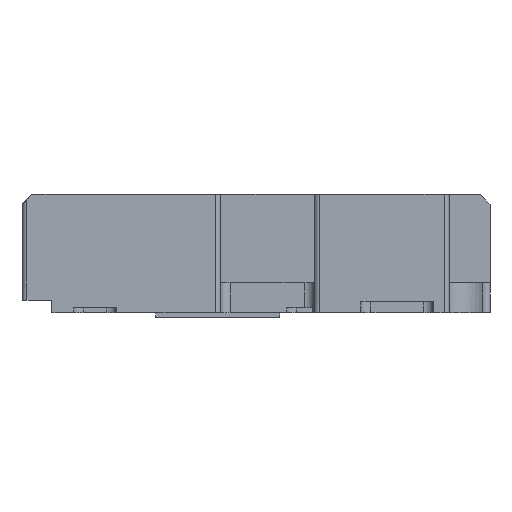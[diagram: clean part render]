
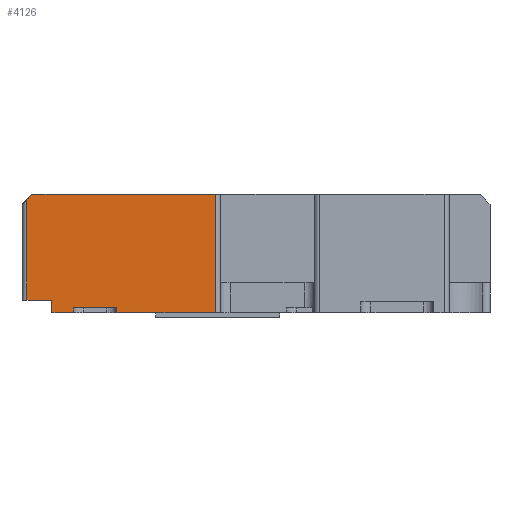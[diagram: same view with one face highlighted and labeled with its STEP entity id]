
A CAD part, front view. The second image highlights one B-rep face of the part: STEP entity #4126.
In plain terms, the highlighted planar face has unit normal (0, -1, 0).
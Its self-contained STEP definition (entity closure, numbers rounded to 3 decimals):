
#63=PLANE('',#4425);
#227=FACE_OUTER_BOUND('',#452,.T.);
#452=EDGE_LOOP('',(#3076,#3077,#3078,#3079,#3080,#3081,#3082,#3083,#3084,
#3085,#3086));
#657=LINE('',#5878,#1157);
#662=LINE('',#5889,#1162);
#689=LINE('',#5961,#1189);
#693=LINE('',#5973,#1193);
#732=LINE('',#6120,#1232);
#735=LINE('',#6126,#1235);
#738=LINE('',#6135,#1238);
#751=LINE('',#6177,#1251);
#754=LINE('',#6185,#1254);
#824=LINE('',#6329,#1324);
#825=LINE('',#6332,#1325);
#1157=VECTOR('',#4691,10.);
#1162=VECTOR('',#4700,10.);
#1189=VECTOR('',#4757,10.);
#1193=VECTOR('',#4765,10.);
#1232=VECTOR('',#4882,10.);
#1235=VECTOR('',#4887,10.);
#1238=VECTOR('',#4896,10.);
#1251=VECTOR('',#4939,10.);
#1254=VECTOR('',#4946,10.);
#1324=VECTOR('',#5026,10.);
#1325=VECTOR('',#5031,10.);
#1779=VERTEX_POINT('',#5875);
#1780=VERTEX_POINT('',#5877);
#1784=VERTEX_POINT('',#5887);
#1814=VERTEX_POINT('',#5960);
#1819=VERTEX_POINT('',#5970);
#1820=VERTEX_POINT('',#5972);
#1889=VERTEX_POINT('',#6119);
#1891=VERTEX_POINT('',#6125);
#1908=VERTEX_POINT('',#6176);
#1911=VERTEX_POINT('',#6184);
#1980=VERTEX_POINT('',#6328);
#2193=EDGE_CURVE('',#1780,#1779,#657,.T.);
#2199=EDGE_CURVE('',#1779,#1784,#662,.T.);
#2234=EDGE_CURVE('',#1780,#1814,#689,.T.);
#2240=EDGE_CURVE('',#1819,#1820,#693,.T.);
#2315=EDGE_CURVE('',#1889,#1814,#732,.T.);
#2318=EDGE_CURVE('',#1891,#1889,#735,.T.);
#2323=EDGE_CURVE('',#1819,#1891,#738,.T.);
#2344=EDGE_CURVE('',#1908,#1820,#751,.T.);
#2348=EDGE_CURVE('',#1911,#1908,#754,.T.);
#2420=EDGE_CURVE('',#1911,#1980,#824,.T.);
#2422=EDGE_CURVE('',#1980,#1784,#825,.T.);
#3076=ORIENTED_EDGE('',*,*,#2193,.T.);
#3077=ORIENTED_EDGE('',*,*,#2199,.T.);
#3078=ORIENTED_EDGE('',*,*,#2422,.F.);
#3079=ORIENTED_EDGE('',*,*,#2420,.F.);
#3080=ORIENTED_EDGE('',*,*,#2348,.T.);
#3081=ORIENTED_EDGE('',*,*,#2344,.T.);
#3082=ORIENTED_EDGE('',*,*,#2240,.F.);
#3083=ORIENTED_EDGE('',*,*,#2323,.T.);
#3084=ORIENTED_EDGE('',*,*,#2318,.T.);
#3085=ORIENTED_EDGE('',*,*,#2315,.T.);
#3086=ORIENTED_EDGE('',*,*,#2234,.F.);
#4126=ADVANCED_FACE('',(#227),#63,.T.);
#4425=AXIS2_PLACEMENT_3D('',#6331,#5029,#5030);
#4691=DIRECTION('',(0.,0.,1.));
#4700=DIRECTION('',(-1.,0.,0.));
#4757=DIRECTION('',(-1.,0.,0.));
#4765=DIRECTION('',(-1.,0.,0.));
#4882=DIRECTION('',(0.,0.,-1.));
#4887=DIRECTION('',(1.,0.,0.));
#4896=DIRECTION('',(0.,0.,1.));
#4939=DIRECTION('',(0.,0.,-1.));
#4946=DIRECTION('',(1.,0.,0.));
#5026=DIRECTION('',(0.,0.,1.));
#5029=DIRECTION('center_axis',(0.,-1.,0.));
#5030=DIRECTION('ref_axis',(1.,0.,0.));
#5031=DIRECTION('',(0.707,0.,0.707));
#5875=CARTESIAN_POINT('',(0.159,8.064,122.895));
#5877=CARTESIAN_POINT('',(0.159,8.064,99.195));
#5878=CARTESIAN_POINT('',(0.159,8.064,103.045));
#5887=CARTESIAN_POINT('',(-36.613,8.064,122.895));
#5889=CARTESIAN_POINT('',(-14.65,8.064,122.895));
#5960=CARTESIAN_POINT('',(-19.625,8.064,99.195));
#5961=CARTESIAN_POINT('',(12.905,8.064,99.195));
#5970=CARTESIAN_POINT('',(-28.275,8.064,99.195));
#5972=CARTESIAN_POINT('',(-32.613,8.064,99.195));
#5973=CARTESIAN_POINT('',(12.905,8.064,99.195));
#6119=CARTESIAN_POINT('',(-19.625,8.064,100.195));
#6120=CARTESIAN_POINT('',(-19.625,8.064,102.035));
#6125=CARTESIAN_POINT('',(-28.275,8.064,100.195));
#6126=CARTESIAN_POINT('',(-16.647,8.064,100.195));
#6135=CARTESIAN_POINT('',(-28.275,8.064,102.814));
#6176=CARTESIAN_POINT('',(-32.613,8.064,101.695));
#6177=CARTESIAN_POINT('',(-32.613,8.064,104.295));
#6184=CARTESIAN_POINT('',(-37.613,8.064,101.695));
#6185=CARTESIAN_POINT('',(-23.808,8.064,101.695));
#6328=CARTESIAN_POINT('',(-37.613,8.064,121.895));
#6329=CARTESIAN_POINT('',(-37.613,8.064,105.195));
#6331=CARTESIAN_POINT('Origin',(-9.003,8.064,106.895));
#6332=CARTESIAN_POINT('',(-41.788,8.064,117.72));
